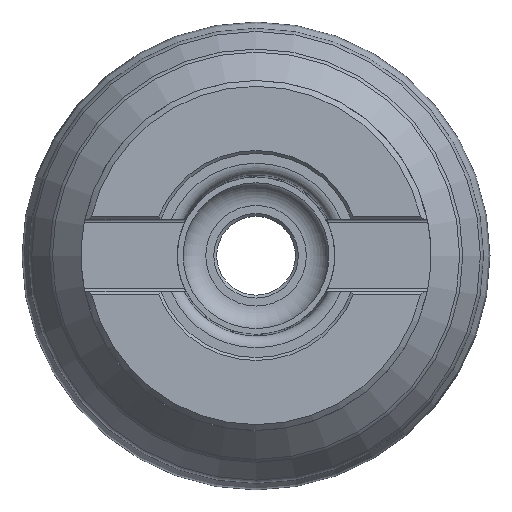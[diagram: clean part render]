
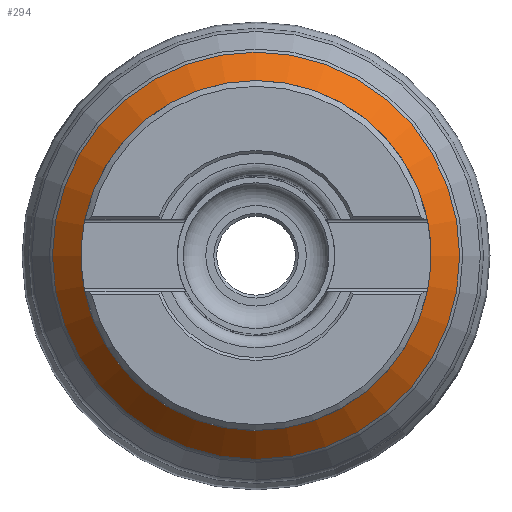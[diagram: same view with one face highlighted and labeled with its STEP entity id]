
A CAD part, top view. The second image highlights one B-rep face of the part: STEP entity #294.
In plain terms, the highlighted conical face has half-angle 42.852 degrees and reference radius 29 mm.
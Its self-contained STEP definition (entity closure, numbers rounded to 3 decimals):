
#156=CONICAL_SURFACE('',#1044,29.,42.852);
#294=ADVANCED_FACE('',(#381,#382),#156,.T.);
#381=FACE_BOUND('',#465,.T.);
#382=FACE_BOUND('',#466,.T.);
#465=EDGE_LOOP('',(#596));
#466=EDGE_LOOP('',(#597));
#596=ORIENTED_EDGE('',*,*,#887,.T.);
#597=ORIENTED_EDGE('',*,*,#888,.T.);
#800=VERTEX_POINT('',#1576);
#801=VERTEX_POINT('',#1578);
#887=EDGE_CURVE('',#800,#800,#974,.T.);
#888=EDGE_CURVE('',#801,#801,#975,.T.);
#974=CIRCLE('',#1042,29.534);
#975=CIRCLE('',#1043,34.909);
#1042=AXIS2_PLACEMENT_3D('',#1575,#1205,#1206);
#1043=AXIS2_PLACEMENT_3D('',#1577,#1207,#1208);
#1044=AXIS2_PLACEMENT_3D('',#1579,#1209,#1210);
#1205=DIRECTION('',(0.,0.,-1.));
#1206=DIRECTION('',(0.,-1.,0.));
#1207=DIRECTION('',(0.,0.,1.));
#1208=DIRECTION('',(0.,1.,0.));
#1209=DIRECTION('',(0.,0.,-1.));
#1210=DIRECTION('',(0.,1.,0.));
#1575=CARTESIAN_POINT('',(0.,0.,-18.575));
#1576=CARTESIAN_POINT('',(0.,-29.534,-18.575));
#1577=CARTESIAN_POINT('',(0.,0.,-24.37));
#1578=CARTESIAN_POINT('',(0.,34.909,-24.37));
#1579=CARTESIAN_POINT('',(0.,0.,-18.));
